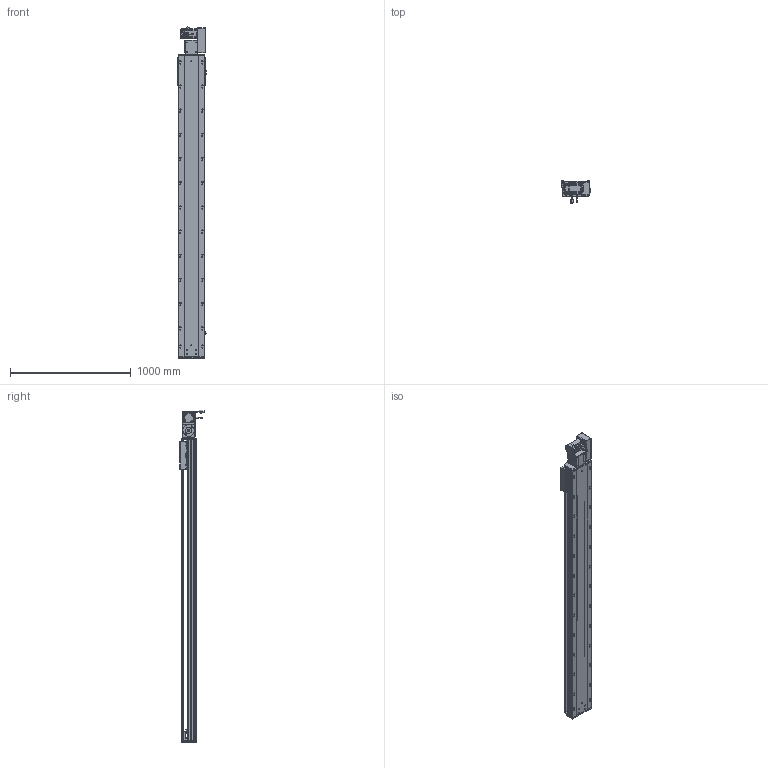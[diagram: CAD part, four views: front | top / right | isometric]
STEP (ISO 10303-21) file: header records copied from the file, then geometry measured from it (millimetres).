
FILE_DESCRIPTION (( 'STEP AP203' ), '1' );
FILE_NAME ('RY220-T-300-RK.SLDASM_2150.step', '2022-07-25T08:24:37', ( '' ), ( '' ), 'SwSTEP 2.0', 'SolidWorks 2016', '' );
FILE_SCHEMA (( 'CONFIG_CONTROL_DESIGN' ));
Length unit declared in the file: millimetre
Products named in the file (14): 覜茼ん672; RY220-同步轮副支撑座6304×2; RY220-T-300-RK.SLDASM_2150; RY220翋肮祭謫釱; RY220翋肮祭謫裔啣; RY220-T-湍謫欶(鍼踢); RY220-T-蛌殏萇儂假蚾啣(750W); 怢湛750W_ECMA-CX0807ES; RY220-俋离672覜茼んえ; 滅袉蝶18-15; RY220-T菁釱-300_2150; RY220-T-300-奻裔啣_2150; 110A-T-肮祭謫釱傷裔; RY220圉猾敕々湍臏賑輸
Assembly tree (18 placements, depth 2):
  RY220-T-300-RK.SLDASM_2150
    RY220-T菁釱-300_2150
    RY220翋肮祭謫釱
    覜茼ん672  x3
    RY220圉猾敕々湍臏賑輸
    RY220-T-300-奻裔啣_2150
    RY220-俋离672覜茼んえ
    滅袉蝶18-15  x3
    RY220翋肮祭謫裔啣  x2
    110A-T-肮祭謫釱傷裔
    怢湛750W_ECMA-CX0807ES
    RY220-T-湍謫欶(鍼踢)
    RY220-T-蛌殏萇儂假蚾啣(750W)
    RY220-同步轮副支撑座6304×2
Bounding box: 238.7 x 198.77 x 2745.24 mm (x, y, z)
Volume: 19702618.9 mm3; surface area: 6006176.4 mm2
Topology: 19 solids, 19 shells, 2860 faces, 7903 edges, 4972 vertices
Faces by surface type: cylinder 1384, plane 1069, cone 325, bspline 56, sphere 16, torus 10
Entity records: 95267 total; most frequent: CARTESIAN_POINT 26975, ORIENTED_EDGE 14138, DIRECTION 13548, EDGE_CURVE 7069, AXIS2_PLACEMENT_3D 4854, VERTEX_POINT 4596, LINE 3840, VECTOR 3840
